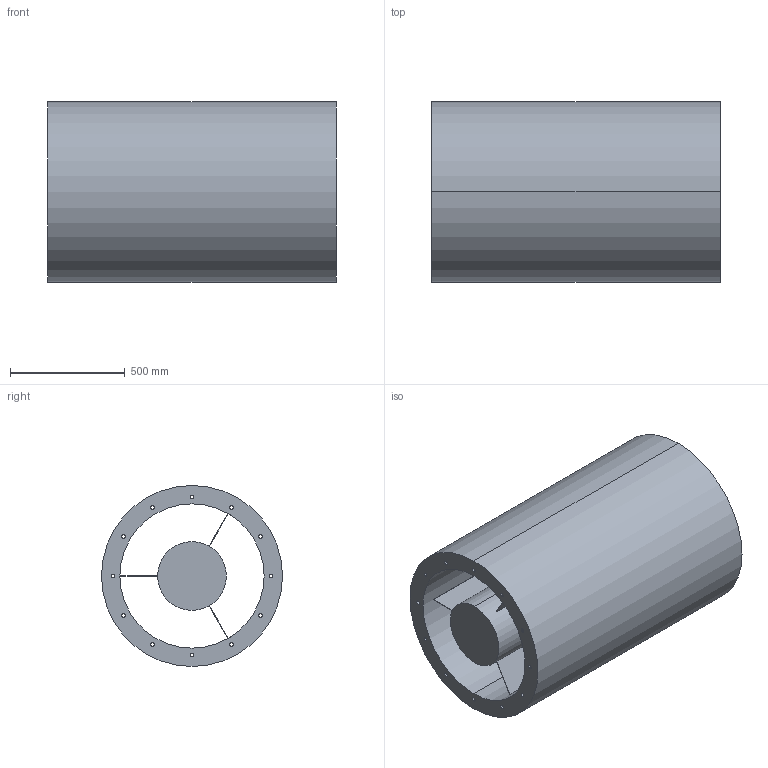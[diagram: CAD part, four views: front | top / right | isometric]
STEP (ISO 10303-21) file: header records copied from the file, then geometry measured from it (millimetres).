
FILE_DESCRIPTION(('STEP AP214'),'1');
FILE_NAME('accessory_5211814700.stp','2017-10-09T11:37:13',('TraceParts'),('TraceParts S.A.'),'Spatial InterOp 3D',' ',' ');
FILE_SCHEMA(('automotive_design'));
Length unit declared in the file: millimetre
Products named in the file (1): accessory_5211814700
Bounding box: 1260 x 790 x 790 mm (x, y, z)
Volume: 303693006.5 mm3; surface area: 8894119.3 mm2
Topology: 1 solids, 1 shells, 48 faces, 131 edges, 87 vertices
Faces by surface type: cylinder 30, plane 16, torus 2
Entity records: 2024 total; most frequent: DIRECTION 306, CARTESIAN_POINT 267, ORIENTED_EDGE 262, EDGE_CURVE 131, AXIS2_PLACEMENT_3D 126, VERTEX_POINT 87, EDGE_LOOP 80, CIRCLE 77
